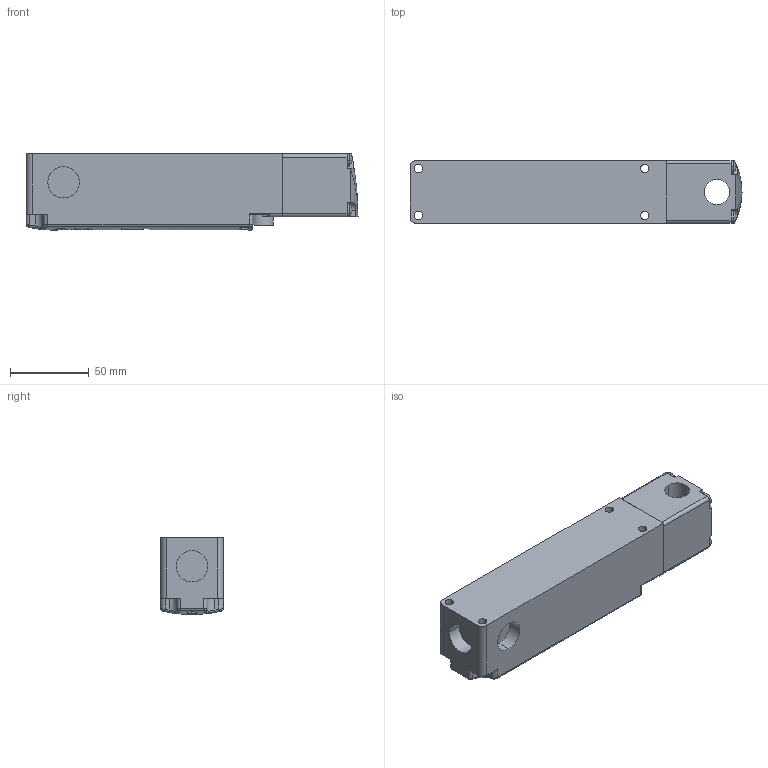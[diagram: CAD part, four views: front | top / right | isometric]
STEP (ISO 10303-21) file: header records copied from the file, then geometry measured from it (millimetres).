
FILE_DESCRIPTION (( 'STEP AP214' ), '1' );
FILE_NAME ('ZF_STEP_NG_2D1Dxx1A.step', '2018-03-29T08:33:37', ( 'Pizzato Elettrica' ), ( 'Microsoft' ), 'SwSTEP 2.0', 'SolidWorks 2014', '' );
FILE_SCHEMA (( 'AUTOMOTIVE_DESIGN' ));
Length unit declared in the file: millimetre
Products named in the file (3): Pizzato_Supporto_NGD1_TGD1; Pizzato_Custodia_NG_ND; ZF_STEP_NG_2D1Dxx1A
Assembly tree (2 placements, depth 2):
  ZF_STEP_NG_2D1Dxx1A
    Pizzato_Custodia_NG_ND
    Pizzato_Supporto_NGD1_TGD1
Bounding box: 211.3 x 40 x 49 mm (x, y, z)
Volume: 357406.4 mm3; surface area: 49683.5 mm2
Topology: 2 solids, 2 shells, 373 faces, 960 edges, 625 vertices
Faces by surface type: plane 206, cylinder 133, sphere 14, bspline 12, torus 6, cone 2
Entity records: 12727 total; most frequent: CARTESIAN_POINT 3519, ORIENTED_EDGE 1916, DIRECTION 1876, EDGE_CURVE 958, AXIS2_PLACEMENT_3D 657, VERTEX_POINT 625, LINE 562, VECTOR 562
